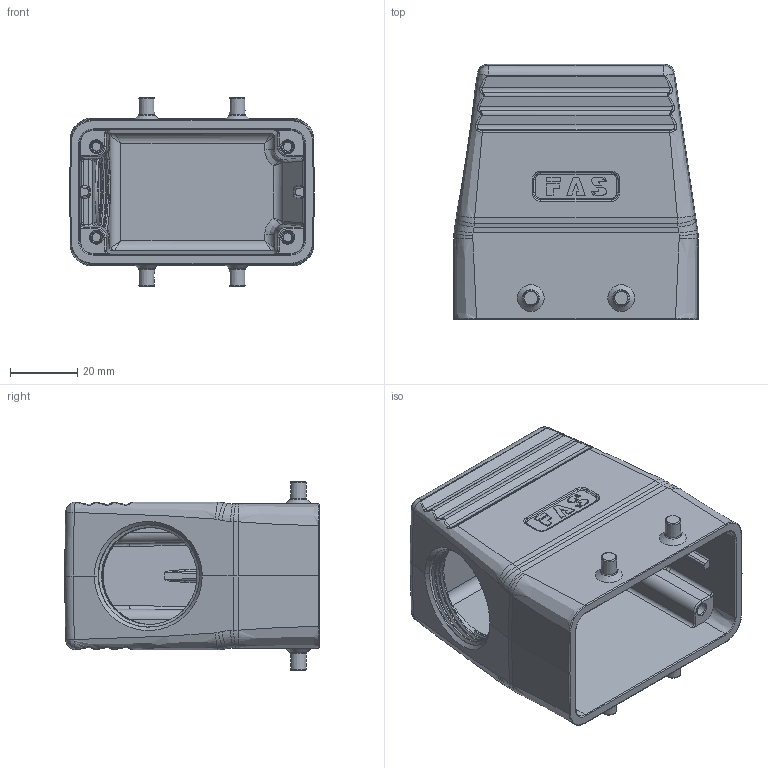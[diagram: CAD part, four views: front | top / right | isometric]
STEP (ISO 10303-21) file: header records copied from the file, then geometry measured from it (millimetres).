
FILE_DESCRIPTION (( 'STEP AP203' ), '1' );
FILE_NAME ('H10B-TGH-M32.STEP', '2023-06-06T08:13:22', ( '' ), ( '' ), 'SwSTEP 2.0', 'SolidWorks 2016', '' );
FILE_SCHEMA (( 'CONFIG_CONTROL_DESIGN' ));
Length unit declared in the file: millimetre
Products named in the file (1): H10B-TGH-M32
Bounding box: 73 x 76 x 56.4 mm (x, y, z)
Volume: 72775.1 mm3; surface area: 34435.5 mm2
Topology: 1 solids, 1 shells, 510 faces, 1286 edges, 805 vertices
Faces by surface type: plane 171, cylinder 143, bspline 124, torus 48, cone 20, sphere 4
Entity records: 28019 total; most frequent: CARTESIAN_POINT 17713, ORIENTED_EDGE 2476, DIRECTION 1524, EDGE_CURVE 1238, VERTEX_POINT 789, EDGE_LOOP 571, B_SPLINE_CURVE_WITH_KNOTS 555, AXIS2_PLACEMENT_3D 529
